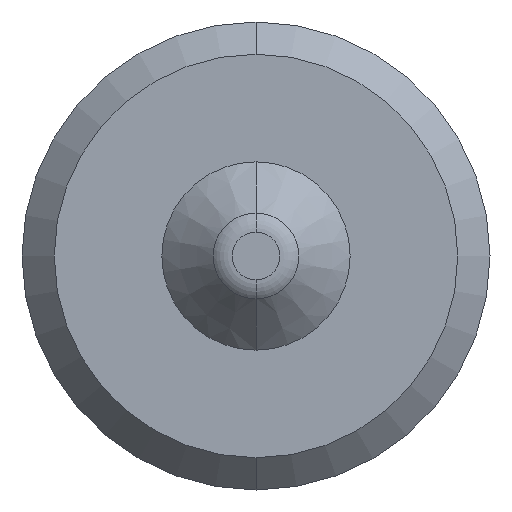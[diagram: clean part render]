
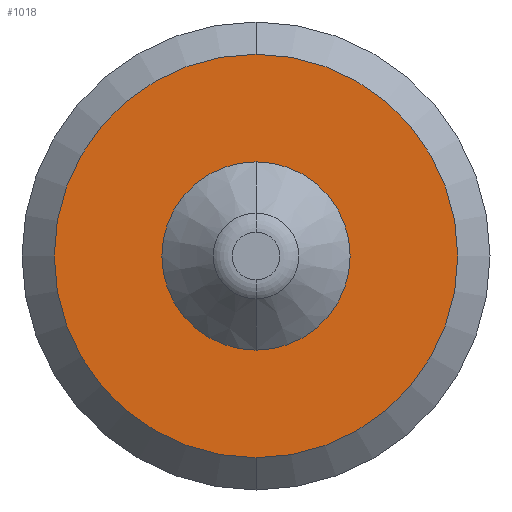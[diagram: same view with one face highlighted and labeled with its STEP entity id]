
A CAD part, front view. The second image highlights one B-rep face of the part: STEP entity #1018.
In plain terms, the highlighted planar face has unit normal (0, -1, 0).
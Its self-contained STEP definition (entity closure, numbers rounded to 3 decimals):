
#17 = EDGE_LOOP ( 'NONE', ( #110, #169 ) ) ;
#38 = EDGE_LOOP ( 'NONE', ( #167, #172 ) ) ;
#110 = ORIENTED_EDGE ( 'NONE', *, *, #1081, .T. ) ;
#167 = ORIENTED_EDGE ( 'NONE', *, *, #1046, .F. ) ;
#169 = ORIENTED_EDGE ( 'NONE', *, *, #1021, .T. ) ;
#172 = ORIENTED_EDGE ( 'NONE', *, *, #912, .F. ) ;
#300 = VERTEX_POINT ( 'NONE', #394 ) ;
#344 = VERTEX_POINT ( 'NONE', #477 ) ;
#345 = VERTEX_POINT ( 'NONE', #478 ) ;
#347 = VERTEX_POINT ( 'NONE', #449 ) ;
#394 = CARTESIAN_POINT ( 'NONE',  ( 0., -5., -1.65 ) ) ;
#449 = CARTESIAN_POINT ( 'NONE',  ( 0., -5., 3.75 ) ) ;
#477 = CARTESIAN_POINT ( 'NONE',  ( 0., -5., -3.75 ) ) ;
#478 = CARTESIAN_POINT ( 'NONE',  ( 0., -5., 1.65 ) ) ;
#501 = DIRECTION ( 'NONE',  ( 0., 0., 1. ) ) ;
#516 = DIRECTION ( 'NONE',  ( 0., 1., 0. ) ) ;
#518 = CARTESIAN_POINT ( 'NONE',  ( 0., -5., 0. ) ) ;
#912 = EDGE_CURVE ( 'NONE', #344, #347, #1368, .T. ) ;
#1018 = ADVANCED_FACE ( 'NONE', ( #1142, #1128 ), #1140, .T. ) ;
#1021 = EDGE_CURVE ( 'NONE', #300, #345, #1498, .T. ) ;
#1046 = EDGE_CURVE ( 'NONE', #347, #344, #1589, .T. ) ;
#1081 = EDGE_CURVE ( 'NONE', #345, #300, #1611, .T. ) ;
#1108 = DIRECTION ( 'NONE',  ( 0., 1., 0. ) ) ;
#1121 = CARTESIAN_POINT ( 'NONE',  ( 0., -5., 0. ) ) ;
#1122 = DIRECTION ( 'NONE',  ( 0., -1., 0. ) ) ;
#1128 = FACE_OUTER_BOUND ( 'NONE', #38, .T. ) ;
#1136 = CARTESIAN_POINT ( 'NONE',  ( -3.75, -5., 0. ) ) ;
#1138 = DIRECTION ( 'NONE',  ( 0., 0., 1. ) ) ;
#1140 = PLANE ( 'NONE',  #1490 ) ;
#1142 = FACE_BOUND ( 'NONE', #17, .T. ) ;
#1149 = DIRECTION ( 'NONE',  ( 0., 0., -1. ) ) ;
#1221 = CARTESIAN_POINT ( 'NONE',  ( 0., -5., 0. ) ) ;
#1225 = DIRECTION ( 'NONE',  ( 0., 0., 1. ) ) ;
#1229 = DIRECTION ( 'NONE',  ( 0., 1., 0. ) ) ;
#1343 = DIRECTION ( 'NONE',  ( 0., 1., 0. ) ) ;
#1349 = DIRECTION ( 'NONE',  ( 0., 0., 1. ) ) ;
#1351 = CARTESIAN_POINT ( 'NONE',  ( 0., -5., 0. ) ) ;
#1368 = CIRCLE ( 'NONE', #1374, 3.75 ) ;
#1374 = AXIS2_PLACEMENT_3D ( 'NONE', #518, #516, #501 ) ;
#1490 = AXIS2_PLACEMENT_3D ( 'NONE', #1136, #1122, #1149 ) ;
#1498 = CIRCLE ( 'NONE', #1531, 1.65 ) ;
#1531 = AXIS2_PLACEMENT_3D ( 'NONE', #1121, #1108, #1138 ) ;
#1561 = AXIS2_PLACEMENT_3D ( 'NONE', #1351, #1343, #1349 ) ;
#1572 = AXIS2_PLACEMENT_3D ( 'NONE', #1221, #1229, #1225 ) ;
#1589 = CIRCLE ( 'NONE', #1572, 3.75 ) ;
#1611 = CIRCLE ( 'NONE', #1561, 1.65 ) ;
